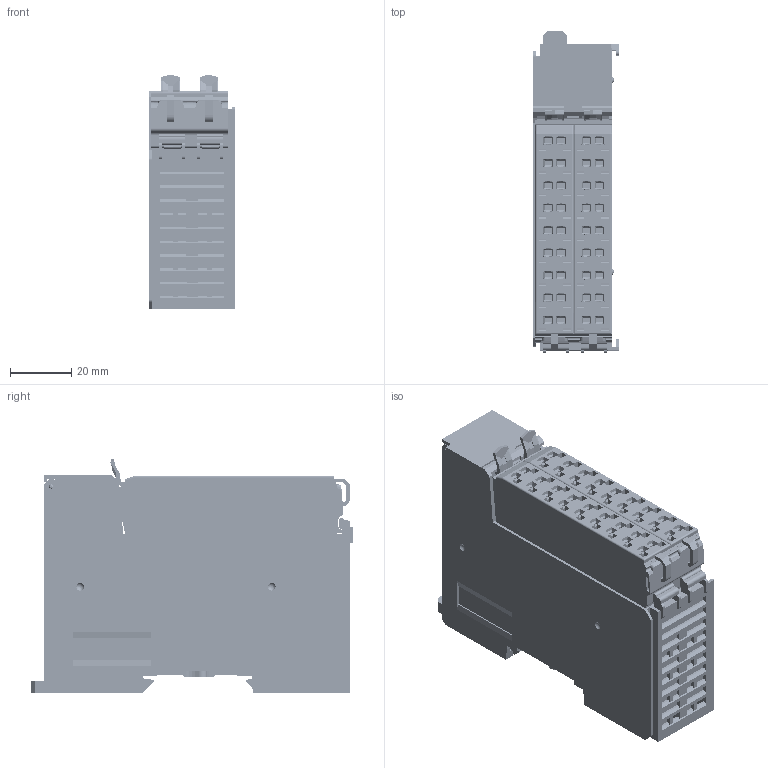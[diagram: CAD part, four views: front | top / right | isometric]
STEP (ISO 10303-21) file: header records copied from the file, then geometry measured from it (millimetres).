
FILE_DESCRIPTION((''),'2;1');
FILE_NAME('Q00001_ASM','2021-06-08T13:41:43',('NING MEI'),(''),'CREO PARAMETRIC BY PTC INC, 2018050','CREO PARAMETRIC BY PTC INC, 2018050','');
FILE_SCHEMA(('CONFIG_CONTROL_DESIGN'));
Products named in the file (1): Q00001_ASM
Bounding box: 28.2 x 105.5 x 76.72 mm (x, y, z)
Volume: 162661.5 mm3; surface area: 59178.2 mm2
Topology: 2 solids, 279 shells, 8800 faces, 25156 edges, 16872 vertices
Faces by surface type: plane 4988, cylinder 3048, torus 288, extrusion 266, bspline 164, cone 38, sphere 8
Entity records: 301039 total; most frequent: CARTESIAN_POINT 68811, ORIENTED_EDGE 49870, DIRECTION 46791, EDGE_CURVE 25148, VERTEX_POINT 16872, VECTOR 16423, LINE 16157, AXIS2_PLACEMENT_3D 15184
